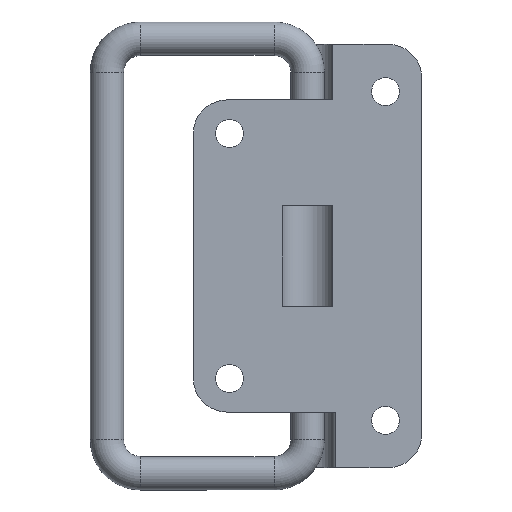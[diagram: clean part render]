
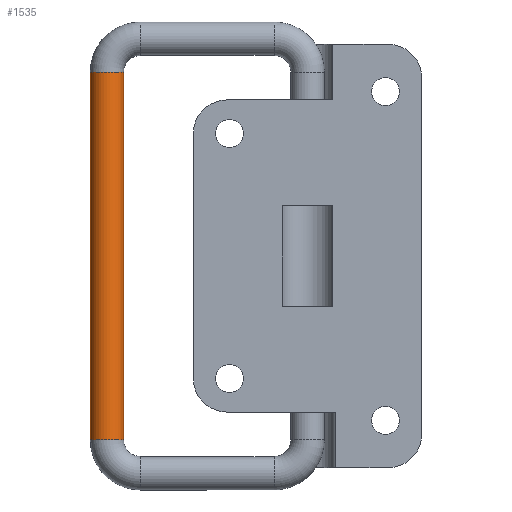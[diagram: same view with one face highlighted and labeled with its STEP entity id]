
A CAD part, front view. The second image highlights one B-rep face of the part: STEP entity #1535.
In plain terms, the highlighted cylindrical face has radius 3 mm (diameter 6 mm), a partial arc.
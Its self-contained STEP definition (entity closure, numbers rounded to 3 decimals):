
#204 = EDGE_CURVE ( 'NONE', #1502, #745, #2247, .T. ) ;
#239 = CARTESIAN_POINT ( 'NONE',  ( 33., 0., -39. ) ) ;
#240 = VERTEX_POINT ( 'NONE', #1984 ) ;
#270 = DIRECTION ( 'NONE',  ( 1., 0., 0. ) ) ;
#320 = EDGE_CURVE ( 'NONE', #1981, #745, #378, .T. ) ;
#378 = LINE ( 'NONE', #1112, #702 ) ;
#437 = ORIENTED_EDGE ( 'NONE', *, *, #204, .F. ) ;
#466 = AXIS2_PLACEMENT_3D ( 'NONE', #817, #270, #1699 ) ;
#549 = VECTOR ( 'NONE', #2093, 1000. ) ;
#572 = ORIENTED_EDGE ( 'NONE', *, *, #2174, .T. ) ;
#580 = EDGE_LOOP ( 'NONE', ( #1985, #572, #622, #437 ) ) ;
#622 = ORIENTED_EDGE ( 'NONE', *, *, #320, .T. ) ;
#685 = CARTESIAN_POINT ( 'NONE',  ( 33., 0., -33. ) ) ;
#702 = VECTOR ( 'NONE', #1465, 1000. ) ;
#704 = EDGE_CURVE ( 'NONE', #240, #1502, #1906, .T. ) ;
#745 = VERTEX_POINT ( 'NONE', #239 ) ;
#817 = CARTESIAN_POINT ( 'NONE',  ( -33., 0., -36. ) ) ;
#968 = CARTESIAN_POINT ( 'NONE',  ( -33., 0., -33. ) ) ;
#1025 = AXIS2_PLACEMENT_3D ( 'NONE', #1106, #2184, #1299 ) ;
#1106 = CARTESIAN_POINT ( 'NONE',  ( -33., 0., -36. ) ) ;
#1112 = CARTESIAN_POINT ( 'NONE',  ( -33., 0., -39. ) ) ;
#1119 = CYLINDRICAL_SURFACE ( 'NONE', #1025, 3. ) ;
#1284 = CARTESIAN_POINT ( 'NONE',  ( -33., 0., -39. ) ) ;
#1299 = DIRECTION ( 'NONE',  ( 0., 0., -1. ) ) ;
#1337 = AXIS2_PLACEMENT_3D ( 'NONE', #2339, #2351, #2166 ) ;
#1465 = DIRECTION ( 'NONE',  ( 1., 0., 0. ) ) ;
#1502 = VERTEX_POINT ( 'NONE', #685 ) ;
#1535 = ADVANCED_FACE ( 'NONE', ( #1998 ), #1119, .T. ) ;
#1699 = DIRECTION ( 'NONE',  ( 0., 0., -1. ) ) ;
#1906 = LINE ( 'NONE', #968, #549 ) ;
#1941 = CIRCLE ( 'NONE', #466, 3. ) ;
#1981 = VERTEX_POINT ( 'NONE', #1284 ) ;
#1984 = CARTESIAN_POINT ( 'NONE',  ( -33., 0., -33. ) ) ;
#1985 = ORIENTED_EDGE ( 'NONE', *, *, #704, .F. ) ;
#1998 = FACE_OUTER_BOUND ( 'NONE', #580, .T. ) ;
#2093 = DIRECTION ( 'NONE',  ( 1., 0., 0. ) ) ;
#2166 = DIRECTION ( 'NONE',  ( 0., 0., -1. ) ) ;
#2174 = EDGE_CURVE ( 'NONE', #240, #1981, #1941, .T. ) ;
#2184 = DIRECTION ( 'NONE',  ( 1., 0., 0. ) ) ;
#2247 = CIRCLE ( 'NONE', #1337, 3. ) ;
#2339 = CARTESIAN_POINT ( 'NONE',  ( 33., 0., -36. ) ) ;
#2351 = DIRECTION ( 'NONE',  ( 1., 0., 0. ) ) ;
